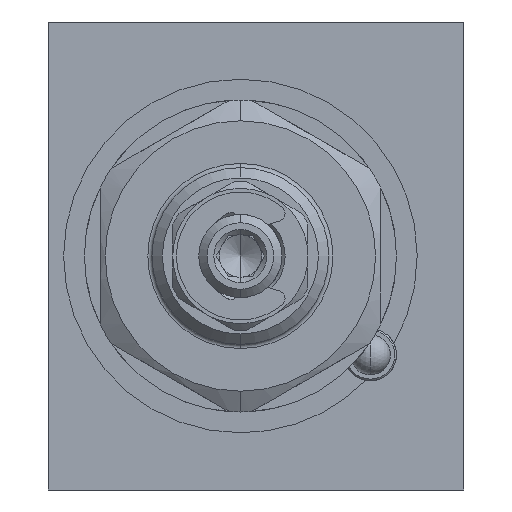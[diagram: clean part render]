
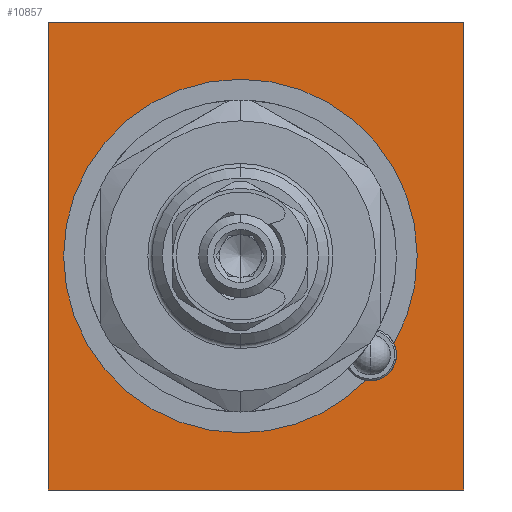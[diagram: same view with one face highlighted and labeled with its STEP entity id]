
A CAD part, left-side view. The second image highlights one B-rep face of the part: STEP entity #10857.
In plain terms, the highlighted planar face has unit normal (-1, 0, 0).
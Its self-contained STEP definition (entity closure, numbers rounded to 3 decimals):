
#240 = LINE ( 'NONE', #4425, #1072 ) ;
#938 = CARTESIAN_POINT ( 'NONE',  ( 0., 20., 22.5 ) ) ;
#1018 = DIRECTION ( 'NONE',  ( 0., 0., 1. ) ) ;
#1056 = CARTESIAN_POINT ( 'NONE',  ( 0., 1.5, 0. ) ) ;
#1072 = VECTOR ( 'NONE', #4592, 1000. ) ;
#1272 = VERTEX_POINT ( 'NONE', #7635 ) ;
#1343 = DIRECTION ( 'NONE',  ( -1., 0., 0. ) ) ;
#1907 = VERTEX_POINT ( 'NONE', #10303 ) ;
#2067 = VERTEX_POINT ( 'NONE', #12265 ) ;
#2113 = VERTEX_POINT ( 'NONE', #938 ) ;
#2322 = VECTOR ( 'NONE', #5537, 1000. ) ;
#2393 = LINE ( 'NONE', #5596, #2322 ) ;
#2424 = DIRECTION ( 'NONE',  ( 0., 0., 1. ) ) ;
#2444 = DIRECTION ( 'NONE',  ( -1., 0., 0. ) ) ;
#2460 = CARTESIAN_POINT ( 'NONE',  ( 0., 20., -22.5 ) ) ;
#2687 = PLANE ( 'NONE',  #6729 ) ;
#2851 = EDGE_LOOP ( 'NONE', ( #9282, #12451, #4163, #7777, #15471 ) ) ;
#3280 = VERTEX_POINT ( 'NONE', #13091 ) ;
#3528 = DIRECTION ( 'NONE',  ( 0., -1., 0. ) ) ;
#3594 = DIRECTION ( 'NONE',  ( 0., 0., 1. ) ) ;
#3601 = CARTESIAN_POINT ( 'NONE',  ( 0., -20., 22.5 ) ) ;
#3642 = DIRECTION ( 'NONE',  ( -1., 0., 0. ) ) ;
#3657 = CARTESIAN_POINT ( 'NONE',  ( 0., -11., -9.5 ) ) ;
#3880 = VERTEX_POINT ( 'NONE', #13207 ) ;
#4163 = ORIENTED_EDGE ( 'NONE', *, *, #9982, .F. ) ;
#4425 = CARTESIAN_POINT ( 'NONE',  ( 0., 20., 22.5 ) ) ;
#4432 = ORIENTED_EDGE ( 'NONE', *, *, #10768, .F. ) ;
#4592 = DIRECTION ( 'NONE',  ( 0., 0., 1. ) ) ;
#5537 = DIRECTION ( 'NONE',  ( 0., 1., 0. ) ) ;
#5596 = CARTESIAN_POINT ( 'NONE',  ( 0., -20., -22.5 ) ) ;
#5950 = DIRECTION ( 'NONE',  ( 0., 0., 1. ) ) ;
#5953 = DIRECTION ( 'NONE',  ( -1., 0., 0. ) ) ;
#5990 = CARTESIAN_POINT ( 'NONE',  ( 0., -11., -9.5 ) ) ;
#6068 = CIRCLE ( 'NONE', #9644, 17. ) ;
#6386 = DIRECTION ( 'NONE',  ( 0., 0., -1. ) ) ;
#6517 = CARTESIAN_POINT ( 'NONE',  ( 0., -20., 22.5 ) ) ;
#6729 = AXIS2_PLACEMENT_3D ( 'NONE', #2460, #2444, #2424 ) ;
#7110 = EDGE_LOOP ( 'NONE', ( #13028, #9781, #4432, #11859 ) ) ;
#7242 = CIRCLE ( 'NONE', #9884, 2.5 ) ;
#7301 = AXIS2_PLACEMENT_3D ( 'NONE', #5990, #5953, #5950 ) ;
#7635 = CARTESIAN_POINT ( 'NONE',  ( 0., -13.261, -8.433 ) ) ;
#7777 = ORIENTED_EDGE ( 'NONE', *, *, #8774, .F. ) ;
#7861 = VERTEX_POINT ( 'NONE', #11559 ) ;
#7901 = AXIS2_PLACEMENT_3D ( 'NONE', #10409, #10407, #10382 ) ;
#8633 = EDGE_CURVE ( 'NONE', #3280, #13100, #7242, .T. ) ;
#8774 = EDGE_CURVE ( 'NONE', #1272, #3880, #6068, .T. ) ;
#9162 = AXIS2_PLACEMENT_3D ( 'NONE', #1056, #15348, #1018 ) ;
#9192 = LINE ( 'NONE', #6517, #15120 ) ;
#9201 = EDGE_CURVE ( 'NONE', #7861, #3280, #16730, .T. ) ;
#9282 = ORIENTED_EDGE ( 'NONE', *, *, #8633, .F. ) ;
#9644 = AXIS2_PLACEMENT_3D ( 'NONE', #17075, #1343, #16877 ) ;
#9781 = ORIENTED_EDGE ( 'NONE', *, *, #10406, .F. ) ;
#9884 = AXIS2_PLACEMENT_3D ( 'NONE', #3657, #3642, #3594 ) ;
#9982 = EDGE_CURVE ( 'NONE', #3880, #7861, #10663, .T. ) ;
#10303 = CARTESIAN_POINT ( 'NONE',  ( 0., -20., 22.5 ) ) ;
#10382 = DIRECTION ( 'NONE',  ( 0., 0., 1. ) ) ;
#10406 = EDGE_CURVE ( 'NONE', #1907, #2067, #9192, .T. ) ;
#10407 = DIRECTION ( 'NONE',  ( -1., 0., 0. ) ) ;
#10409 = CARTESIAN_POINT ( 'NONE',  ( 0., 1.5, 0. ) ) ;
#10428 = EDGE_CURVE ( 'NONE', #13100, #1272, #13329, .T. ) ;
#10521 = EDGE_CURVE ( 'NONE', #2067, #16860, #2393, .T. ) ;
#10663 = CIRCLE ( 'NONE', #7901, 17. ) ;
#10677 = EDGE_CURVE ( 'NONE', #16860, #2113, #240, .T. ) ;
#10753 = CARTESIAN_POINT ( 'NONE',  ( 0., 20., -22.5 ) ) ;
#10768 = EDGE_CURVE ( 'NONE', #2113, #1907, #14535, .T. ) ;
#10857 = ADVANCED_FACE ( 'NONE', ( #12113, #17803 ), #2687, .T. ) ;
#11559 = CARTESIAN_POINT ( 'NONE',  ( 0., 1.5, -17. ) ) ;
#11859 = ORIENTED_EDGE ( 'NONE', *, *, #10677, .F. ) ;
#12113 = FACE_BOUND ( 'NONE', #2851, .T. ) ;
#12265 = CARTESIAN_POINT ( 'NONE',  ( 0., -20., -22.5 ) ) ;
#12451 = ORIENTED_EDGE ( 'NONE', *, *, #9201, .F. ) ;
#13028 = ORIENTED_EDGE ( 'NONE', *, *, #10521, .F. ) ;
#13091 = CARTESIAN_POINT ( 'NONE',  ( 0., -10.577, -11.964 ) ) ;
#13100 = VERTEX_POINT ( 'NONE', #18438 ) ;
#13207 = CARTESIAN_POINT ( 'NONE',  ( 0., 1.5, 17. ) ) ;
#13329 = CIRCLE ( 'NONE', #7301, 2.5 ) ;
#14070 = VECTOR ( 'NONE', #3528, 1000. ) ;
#14535 = LINE ( 'NONE', #3601, #14070 ) ;
#15120 = VECTOR ( 'NONE', #6386, 1000. ) ;
#15348 = DIRECTION ( 'NONE',  ( -1., 0., 0. ) ) ;
#15471 = ORIENTED_EDGE ( 'NONE', *, *, #10428, .F. ) ;
#16730 = CIRCLE ( 'NONE', #9162, 17. ) ;
#16860 = VERTEX_POINT ( 'NONE', #10753 ) ;
#16877 = DIRECTION ( 'NONE',  ( 0., 0., 1. ) ) ;
#17075 = CARTESIAN_POINT ( 'NONE',  ( 0., 1.5, 0. ) ) ;
#17803 = FACE_OUTER_BOUND ( 'NONE', #7110, .T. ) ;
#18438 = CARTESIAN_POINT ( 'NONE',  ( 0., -11., -12. ) ) ;
